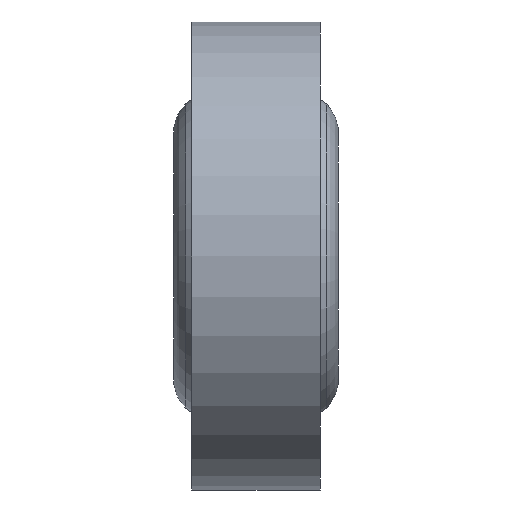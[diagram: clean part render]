
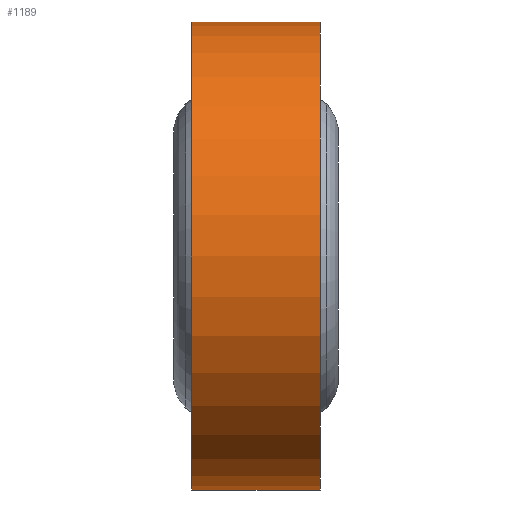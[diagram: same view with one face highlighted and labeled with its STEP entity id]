
A CAD part, left-side view. The second image highlights one B-rep face of the part: STEP entity #1189.
In plain terms, the highlighted cylindrical face has radius 10 mm (diameter 20 mm), a full revolution.
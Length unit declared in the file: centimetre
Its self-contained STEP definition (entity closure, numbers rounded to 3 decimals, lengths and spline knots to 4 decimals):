
#40=VECTOR('',#1363,1.);
#41=VECTOR('',#1364,1.);
#44=LINE('',#1748,#40);
#45=LINE('',#1749,#41);
#60=B_SPLINE_CURVE_WITH_KNOTS('',3,(#1683,#1684,#1685,#1686,#1687,#1688,
#1689,#1690,#1691,#1692,#1693,#1694,#1695,#1696),.UNSPECIFIED.,.F.,.U.,
(4,2,2,2,2,2,4),(0.1042,0.2084,0.3125,0.4167,
0.5208,0.625,0.7292),.UNSPECIFIED.);
#61=B_SPLINE_CURVE_WITH_KNOTS('',3,(#1700,#1701,#1702,#1703,#1704,#1705,
#1706,#1707,#1708,#1709,#1710,#1711,#1712,#1713),.UNSPECIFIED.,.F.,.U.,
(4,2,2,2,2,2,4),(0.1042,0.2084,0.3125,0.4167,
0.5208,0.625,0.7292),.UNSPECIFIED.);
#62=B_SPLINE_CURVE_WITH_KNOTS('',3,(#1718,#1719,#1720,#1721,#1722,#1723,
#1724,#1725,#1726,#1727,#1728,#1729,#1730,#1731),.UNSPECIFIED.,.F.,.U.,
(4,2,2,2,2,2,4),(0.9375,1.0417,1.1459,1.25,
1.3542,1.4584,1.5625),.UNSPECIFIED.);
#63=B_SPLINE_CURVE_WITH_KNOTS('',3,(#1732,#1733,#1734,#1735,#1736,#1737,
#1738,#1739,#1740,#1741,#1742,#1743,#1744,#1745),.UNSPECIFIED.,.F.,.U.,
(4,2,2,2,2,2,4),(0.9375,1.0417,1.1459,1.25,
1.3542,1.4584,1.5625),.UNSPECIFIED.);
#791=CYLINDRICAL_SURFACE('',#1245,1.);
#825=VERTEX_POINT('',#1681);
#827=VERTEX_POINT('',#1697);
#828=VERTEX_POINT('',#1699);
#829=VERTEX_POINT('',#1715);
#831=VERTEX_POINT('',#1717);
#832=VERTEX_POINT('',#1746);
#865=CIRCLE('',#1246,1.);
#866=CIRCLE('',#1247,1.);
#901=EDGE_CURVE('',#827,#825,#60,.T.);
#904=EDGE_CURVE('',#825,#828,#61,.T.);
#907=EDGE_CURVE('',#829,#831,#62,.T.);
#908=EDGE_CURVE('',#832,#829,#63,.T.);
#910=EDGE_CURVE('',#828,#832,#44,.T.);
#911=EDGE_CURVE('',#831,#827,#45,.T.);
#912=EDGE_CURVE('',#825,#825,#865,.T.);
#913=EDGE_CURVE('',#829,#829,#866,.T.);
#982=ORIENTED_EDGE('',*,*,#912,.T.);
#983=ORIENTED_EDGE('',*,*,#904,.T.);
#984=ORIENTED_EDGE('',*,*,#910,.T.);
#985=ORIENTED_EDGE('',*,*,#908,.T.);
#986=ORIENTED_EDGE('',*,*,#913,.T.);
#987=ORIENTED_EDGE('',*,*,#907,.T.);
#988=ORIENTED_EDGE('',*,*,#911,.T.);
#989=ORIENTED_EDGE('',*,*,#901,.T.);
#1064=EDGE_LOOP('',(#982,#983,#984,#985,#986,#987,#988,#989));
#1135=FACE_BOUND('',#1064,.T.);
#1189=ADVANCED_FACE('',(#1135),#791,.T.);
#1245=AXIS2_PLACEMENT_3D('',#1750,#1365,#1366);
#1246=AXIS2_PLACEMENT_3D('',#1751,#1367,#1368);
#1247=AXIS2_PLACEMENT_3D('',#1752,#1369,#1370);
#1363=DIRECTION('',(0.,-1.,0.));
#1364=DIRECTION('',(0.,1.,0.));
#1365=DIRECTION('',(0.,1.,0.));
#1366=DIRECTION('',(1.,0.,0.));
#1367=DIRECTION('',(0.,-1.,0.));
#1368=DIRECTION('',(1.,0.,0.));
#1369=DIRECTION('',(0.,1.,0.));
#1370=DIRECTION('',(1.,0.,0.));
#1681=CARTESIAN_POINT('',(1.,0.275,0.));
#1683=CARTESIAN_POINT('',(0.9672,0.1055,0.254));
#1684=CARTESIAN_POINT('',(0.9709,0.1393,0.2399));
#1685=CARTESIAN_POINT('',(0.9761,0.1701,0.2188));
#1686=CARTESIAN_POINT('',(0.9857,0.2188,0.1701));
#1687=CARTESIAN_POINT('',(0.9908,0.2399,0.1393));
#1688=CARTESIAN_POINT('',(0.998,0.268,0.0716));
#1689=CARTESIAN_POINT('',(1.,0.275,0.0347));
#1690=CARTESIAN_POINT('',(1.,0.275,-0.0347));
#1691=CARTESIAN_POINT('',(0.998,0.268,-0.0716));
#1692=CARTESIAN_POINT('',(0.9908,0.2399,-0.1393));
#1693=CARTESIAN_POINT('',(0.9857,0.2188,-0.1701));
#1694=CARTESIAN_POINT('',(0.9761,0.1701,-0.2188));
#1695=CARTESIAN_POINT('',(0.9709,0.1393,-0.2399));
#1696=CARTESIAN_POINT('',(0.9672,0.1055,-0.254));
#1697=CARTESIAN_POINT('',(0.97,0.1285,0.2431));
#1699=CARTESIAN_POINT('',(0.97,0.1285,-0.2431));
#1700=CARTESIAN_POINT('',(0.9672,0.1055,0.254));
#1701=CARTESIAN_POINT('',(0.9709,0.1393,0.2399));
#1702=CARTESIAN_POINT('',(0.9761,0.1701,0.2188));
#1703=CARTESIAN_POINT('',(0.9857,0.2188,0.1701));
#1704=CARTESIAN_POINT('',(0.9908,0.2399,0.1393));
#1705=CARTESIAN_POINT('',(0.998,0.268,0.0716));
#1706=CARTESIAN_POINT('',(1.,0.275,0.0347));
#1707=CARTESIAN_POINT('',(1.,0.275,-0.0347));
#1708=CARTESIAN_POINT('',(0.998,0.268,-0.0716));
#1709=CARTESIAN_POINT('',(0.9908,0.2399,-0.1393));
#1710=CARTESIAN_POINT('',(0.9857,0.2188,-0.1701));
#1711=CARTESIAN_POINT('',(0.9761,0.1701,-0.2188));
#1712=CARTESIAN_POINT('',(0.9709,0.1393,-0.2399));
#1713=CARTESIAN_POINT('',(0.9672,0.1055,-0.254));
#1715=CARTESIAN_POINT('',(1.,-0.275,0.));
#1717=CARTESIAN_POINT('',(0.97,-0.1285,0.2431));
#1718=CARTESIAN_POINT('',(0.9672,-0.1055,-0.254));
#1719=CARTESIAN_POINT('',(0.9709,-0.1393,-0.2399));
#1720=CARTESIAN_POINT('',(0.9761,-0.1701,-0.2188));
#1721=CARTESIAN_POINT('',(0.9857,-0.2188,-0.1701));
#1722=CARTESIAN_POINT('',(0.9908,-0.2399,-0.1393));
#1723=CARTESIAN_POINT('',(0.998,-0.268,-0.0716));
#1724=CARTESIAN_POINT('',(1.,-0.275,-0.0347));
#1725=CARTESIAN_POINT('',(1.,-0.275,0.0347));
#1726=CARTESIAN_POINT('',(0.998,-0.268,0.0716));
#1727=CARTESIAN_POINT('',(0.9908,-0.2399,0.1393));
#1728=CARTESIAN_POINT('',(0.9857,-0.2188,0.1701));
#1729=CARTESIAN_POINT('',(0.9761,-0.1701,0.2188));
#1730=CARTESIAN_POINT('',(0.9709,-0.1393,0.2399));
#1731=CARTESIAN_POINT('',(0.9672,-0.1055,0.254));
#1732=CARTESIAN_POINT('',(0.9672,-0.1055,-0.254));
#1733=CARTESIAN_POINT('',(0.9709,-0.1393,-0.2399));
#1734=CARTESIAN_POINT('',(0.9761,-0.1701,-0.2188));
#1735=CARTESIAN_POINT('',(0.9857,-0.2188,-0.1701));
#1736=CARTESIAN_POINT('',(0.9908,-0.2399,-0.1393));
#1737=CARTESIAN_POINT('',(0.998,-0.268,-0.0716));
#1738=CARTESIAN_POINT('',(1.,-0.275,-0.0347));
#1739=CARTESIAN_POINT('',(1.,-0.275,0.0347));
#1740=CARTESIAN_POINT('',(0.998,-0.268,0.0716));
#1741=CARTESIAN_POINT('',(0.9908,-0.2399,0.1393));
#1742=CARTESIAN_POINT('',(0.9857,-0.2188,0.1701));
#1743=CARTESIAN_POINT('',(0.9761,-0.1701,0.2188));
#1744=CARTESIAN_POINT('',(0.9709,-0.1393,0.2399));
#1745=CARTESIAN_POINT('',(0.9672,-0.1055,0.254));
#1746=CARTESIAN_POINT('',(0.97,-0.1285,-0.2431));
#1748=CARTESIAN_POINT('',(0.97,0.,-0.2431));
#1749=CARTESIAN_POINT('',(0.97,0.,0.2431));
#1750=CARTESIAN_POINT('',(0.,-0.275,0.));
#1751=CARTESIAN_POINT('',(0.,0.275,0.));
#1752=CARTESIAN_POINT('',(0.,-0.275,0.));
